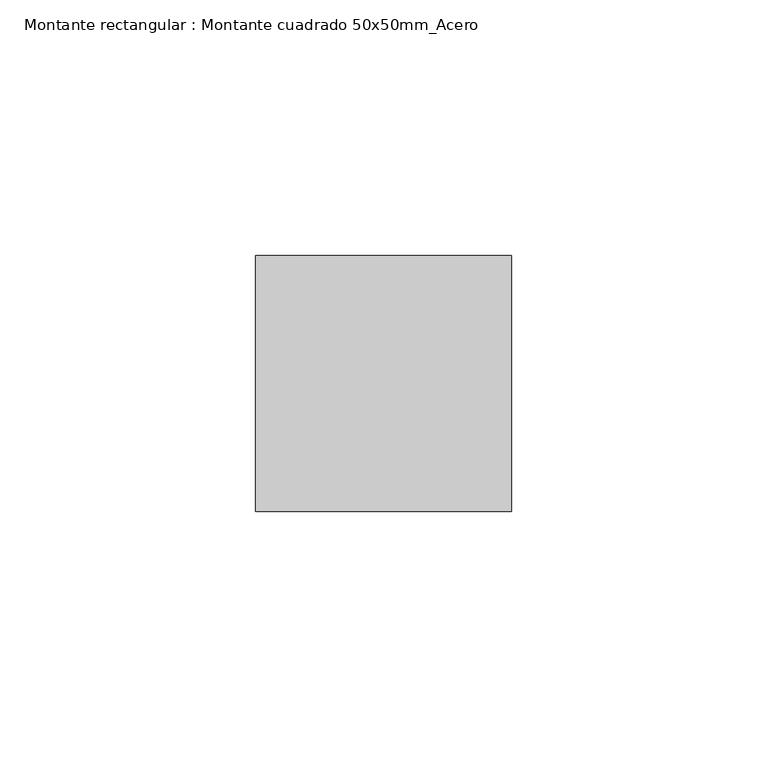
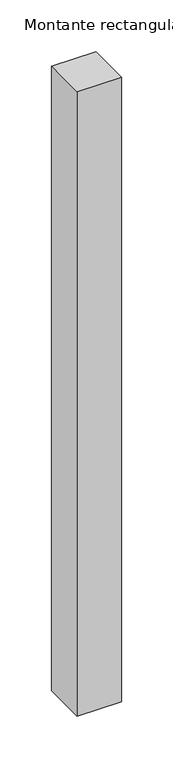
"""IFC4 building model written with IfcOpenShell, lengths in millimetres: member geometry, Montante rectangular : Montante cuadrado 50x50mm_Acero."""

import ifcopenshell
import ifcopenshell.guid

model = None  # the IFC model being written
_history = None  # IfcOwnerHistory: only IFC2X3 demands one
_inside = {}  # id of a spatial element -> (the spatial element, [elements in it])
_under = {}  # id of a project, library or spatial element -> (it, [spatial elements below it])
_declared = {}  # id of a project -> (the project, [libraries it declares])
_typed = {}  # id of a type object -> (the type object, [elements of that type])
_made_of = {}  # id of a material, layer set ... -> (it, [elements and type objects made of it])


def new_model(schema):
    """Start an empty IFC model of exactly this schema.

    Asked for "IFC4X3", IfcOpenShell would pick the latest addendum, in which some entities
    have other attributes; the version numbers below select the first issue.
    IFC2X3 requires an IfcOwnerHistory on every rooted entity: one is made here for all.
    """
    global model, _history
    if schema == "IFC4X3":
        model = ifcopenshell.file(schema_version=(4, 3, 0, 0))
    else:
        model = ifcopenshell.file(schema=schema)
    _inside.clear()
    _under.clear()
    _declared.clear()
    _typed.clear()
    _made_of.clear()
    _history = None
    if model.schema == "IFC2X3":
        org = make("IfcOrganization", Name="unknown")
        user = make(
            "IfcPersonAndOrganization",
            ThePerson=make("IfcPerson", FamilyName="unknown"),
            TheOrganization=org,
        )
        app = make(
            "IfcApplication",
            ApplicationDeveloper=org,
            Version="unknown",
            ApplicationFullName="unknown",
            ApplicationIdentifier="unknown",
        )
        _history = make(
            "IfcOwnerHistory",
            OwningUser=user,
            OwningApplication=app,
            ChangeAction="ADDED",
            CreationDate=0,
        )
    return model


def make(cls, **values):
    """One entity of the class cls with the attributes given. An attribute that is None is left unset."""
    return model.create_entity(
        cls, **{name: value for name, value in values.items() if value is not None}
    )


def rooted(cls, **values):
    """An entity with a GlobalId (a new one), such as an element, a storey or a relation."""
    return make(cls, GlobalId=ifcopenshell.guid.new(), OwnerHistory=_history, **values)


def si_unit(unit_type, name, prefix=None):
    """IfcSIUnit, for example si_unit("LENGTHUNIT", "METRE", prefix="MILLI")."""
    return make("IfcSIUnit", UnitType=unit_type, Prefix=prefix, Name=name)


def assignment(units):
    """IfcUnitAssignment: the units of a project."""
    return None if units is None else make("IfcUnitAssignment", Units=units)


def point(xyz):
    """IfcCartesianPoint."""
    return None if xyz is None else make("IfcCartesianPoint", Coordinates=xyz)


def direction(xyz):
    """IfcDirection."""
    return None if xyz is None else make("IfcDirection", DirectionRatios=xyz)


def frame(location, z_axis=None, x_axis=None):
    """IfcAxis2Placement3D, a coordinate frame: its origin and axes. An axis left out is left unset."""
    return make(
        "IfcAxis2Placement3D",
        Location=point(location),
        Axis=direction(z_axis),
        RefDirection=direction(x_axis),
    )


def origin():
    """The frame at (0, 0, 0) with its axes left unset."""
    return frame((0.0, 0.0, 0.0))


def place(relative_to, where):
    """IfcLocalPlacement: puts the frame where relative to a parent placement (None: the world)."""
    return make(
        "IfcLocalPlacement", PlacementRelTo=relative_to, RelativePlacement=where
    )


def context(
    kind, dimensions, precision=None, world=None, true_north=None, identifier=None
):
    """IfcGeometricRepresentationContext, for example the 3D "Model" context."""
    return make(
        "IfcGeometricRepresentationContext",
        ContextIdentifier=identifier,
        ContextType=kind,
        CoordinateSpaceDimension=dimensions,
        Precision=precision,
        WorldCoordinateSystem=world,
        TrueNorth=true_north,
    )


def project(units=None, contexts=None):
    """IfcProject with its units and contexts."""
    return rooted(
        "IfcProject",
        Name="project",
        RepresentationContexts=contexts,
        UnitsInContext=assignment(units),
    )


def spatial(cls, under=None, at=None, **own):
    """A site, building, storey or space (cls), placed at a placement, below another one or the project."""
    s = rooted(cls, ObjectPlacement=at, **own)
    if under is not None:
        _under.setdefault(under.id(), (under, []))[1].append(s)
    return s


def polyline(points):
    """IfcPolyline through the points."""
    return make("IfcPolyline", Points=[point(p) for p in points])


def outline(outer, holes=None, kind="AREA"):
    """IfcArbitraryClosedProfileDef: a profile drawn as a closed curve; with holes, ...WithVoids."""
    if holes is None:
        return make("IfcArbitraryClosedProfileDef", ProfileType=kind, OuterCurve=outer)
    return make(
        "IfcArbitraryProfileDefWithVoids",
        ProfileType=kind,
        OuterCurve=outer,
        InnerCurves=holes,
    )


def extrude(swept, where, along, depth):
    """IfcExtrudedAreaSolid: the profile swept, set in the frame where, extruded along a direction by depth."""
    return make(
        "IfcExtrudedAreaSolid",
        SweptArea=swept,
        Position=where,
        ExtrudedDirection=direction(along),
        Depth=depth,
    )


def shape(context_of_items, identifier, shape_type, items):
    """IfcShapeRepresentation: the items that make up one representation, for example the "Body"."""
    return make(
        "IfcShapeRepresentation",
        ContextOfItems=context_of_items,
        RepresentationIdentifier=identifier,
        RepresentationType=shape_type,
        Items=items,
    )


def source(mapping_origin, context_of_items, identifier, shape_type, items):
    """IfcRepresentationMap: a shape defined once, which mapped items show again and again."""
    return make(
        "IfcRepresentationMap",
        MappingOrigin=mapping_origin,
        MappedRepresentation=shape(context_of_items, identifier, shape_type, items),
    )


def transform(
    local_origin,
    x_axis=None,
    y_axis=None,
    z_axis=None,
    scale=None,
    scale2=None,
    scale3=None,
    uniform=True,
):
    """IfcCartesianTransformationOperator3D, or its non-uniform kind. x_axis, y_axis, z_axis: its Axis1, 2, 3."""
    if uniform:
        return make(
            "IfcCartesianTransformationOperator3D",
            Axis1=direction(x_axis),
            Axis2=direction(y_axis),
            LocalOrigin=point(local_origin),
            Scale=scale,
            Axis3=direction(z_axis),
        )
    return make(
        "IfcCartesianTransformationOperator3DnonUniform",
        Axis1=direction(x_axis),
        Axis2=direction(y_axis),
        LocalOrigin=point(local_origin),
        Scale=scale,
        Axis3=direction(z_axis),
        Scale2=scale2,
        Scale3=scale3,
    )


def mapped(mapping_source, mapping_target):
    """IfcMappedItem: shows the shape of a source again, moved by a transform."""
    return make(
        "IfcMappedItem", MappingSource=mapping_source, MappingTarget=mapping_target
    )


def made_of(thing, what):
    """Note that an element or type object is made of a material, layer set ...; save() writes the relation."""
    if what is not None:
        _made_of.setdefault(what.id(), (what, []))[1].append(thing)
    return thing


def element(
    cls,
    number,
    at=None,
    inside=None,
    cuts=None,
    type_object=None,
    material=None,
    context=None,
    identifier="Body",
    shape_type=None,
    held_by="IfcProductDefinitionShape",
    body=None,
    shapes=None,
    **own,
):
    """One element of the class cls, such as IfcWall. Its Tag is "e" and its number.

    at: its placement. inside: the storey or other place that contains it. cuts: it is an
    opening in that element (IfcRelVoidsElement). A single representation is given by context,
    identifier, shape_type and body (its items); several are given by shapes. held_by: the class
    of the entity that holds the representations. save() writes the other relations.
    """
    e = rooted(cls, Tag="e%d" % number, ObjectPlacement=at, **own)
    if body is not None:
        shapes = [shape(context, identifier, shape_type, body)]
    if shapes is not None:
        e.Representation = make(held_by, Representations=shapes)
    if inside is not None:
        _inside.setdefault(inside.id(), (inside, []))[1].append(e)
    if cuts is not None:
        rooted(
            "IfcRelVoidsElement", RelatingBuildingElement=cuts, RelatedOpeningElement=e
        )
    if type_object is not None:
        _typed.setdefault(type_object.id(), (type_object, []))[1].append(e)
    return made_of(e, material)


def aggregate(whole, parts):
    """IfcRelAggregates: a whole, such as a stair, and the parts it consists of."""
    return rooted("IfcRelAggregates", RelatingObject=whole, RelatedObjects=parts)


def save(model, path):
    """Write the relations noted so far, then the file.

    IfcRelAggregates (storeys below a building ...), IfcRelContainedInSpatialStructure (elements
    in a storey), IfcRelDefinesByType, IfcRelAssociatesMaterial and IfcRelDeclares: one each for
    every whole, place, type object, material and project.
    """
    for whole, parts in _under.values():
        aggregate(whole, parts)
    for where, things in _inside.values():
        rooted(
            "IfcRelContainedInSpatialStructure",
            RelatedElements=things,
            RelatingStructure=where,
        )
    for kind, things in _typed.values():
        rooted("IfcRelDefinesByType", RelatedObjects=things, RelatingType=kind)
    for what, things in _made_of.values():
        rooted("IfcRelAssociatesMaterial", RelatedObjects=things, RelatingMaterial=what)
    for by, libraries in _declared.values():
        rooted("IfcRelDeclares", RelatingContext=by, RelatedDefinitions=libraries)
    model.write(path)


def montante_rectangular_montante_cuadrado_50x50mm_acero_f08a09c5(model_context):
    return source(origin(), model_context, "Body", "SweptSolid", [
        extrude(outline(polyline([(-50.0, 0.0), (0.0, 0.0), (0.0, -50.0), (-50.0, -50.0), (-50.0, 0.0)])), frame((0.0, 0.0, -740.0), z_axis=(0.0, 0.0, 1.0), x_axis=(1.0, 0.0, 0.0)), (0.0, 0.0, 1.0), 740.0),
    ])


if __name__ == "__main__":
    model = new_model("IFC4")
    model_context = context("Model", 3, world=origin())
    ifc_project = project(units=[si_unit("LENGTHUNIT", "METRE", prefix="MILLI")], contexts=[model_context])
    site = spatial("IfcSite", under=ifc_project)
    building = spatial("IfcBuilding", under=site)
    placement = place(None, origin())
    montante_rectangular_montante_cuadrado_50x50mm_acero_shape = montante_rectangular_montante_cuadrado_50x50mm_acero_f08a09c5(model_context)
    element("IfcMember", 1, ObjectType="Montante rectangular : Montante cuadrado 50x50mm_Acero", at=placement, inside=building, context=model_context, shape_type="MappedRepresentation", body=[
        mapped(montante_rectangular_montante_cuadrado_50x50mm_acero_shape, transform((0.0, 0.0, 0.0), x_axis=(1.0, 0.0, 0.0), y_axis=(0.0, 1.0, 0.0), z_axis=(0.0, 0.0, 1.0))),
    ])
    save(model, "model.ifc")
